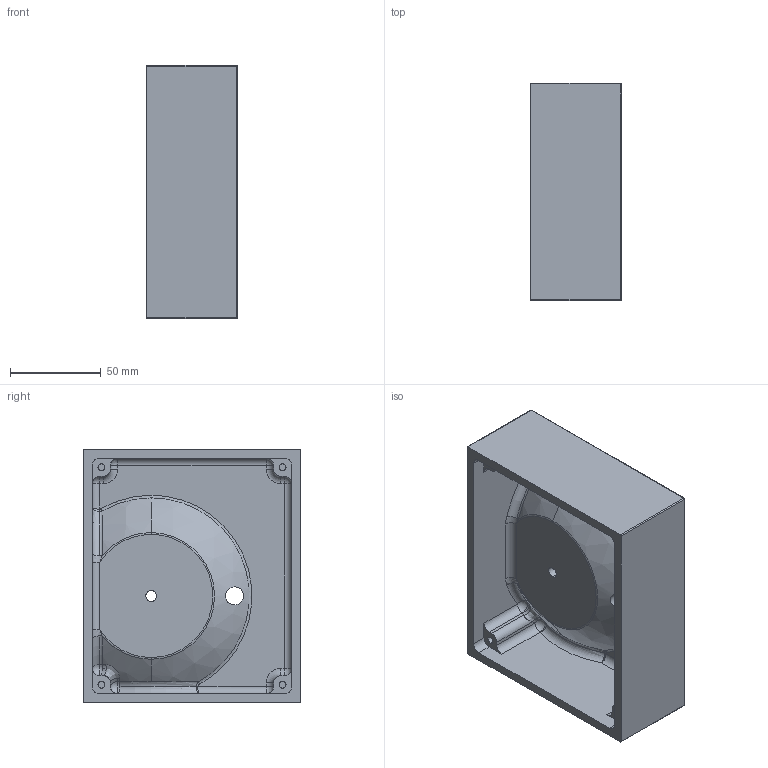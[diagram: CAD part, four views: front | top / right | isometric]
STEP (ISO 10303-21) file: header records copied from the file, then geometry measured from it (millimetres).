
FILE_DESCRIPTION (( 'STEP AP214' ), '1' );
FILE_NAME ('Support2.STEP', '2016-07-19T15:23:59', ( '' ), ( '' ), 'SwSTEP 2.0', 'SolidWorks 2010', '' );
FILE_SCHEMA (( 'AUTOMOTIVE_DESIGN' ));
Length unit declared in the file: millimetre
Products named in the file (1): Support2
Bounding box: 50 x 120 x 140 mm (x, y, z)
Volume: 215671.5 mm3; surface area: 80193.5 mm2
Topology: 1 solids, 1 shells, 129 faces, 308 edges, 170 vertices
Faces by surface type: cylinder 48, plane 29, sphere 23, torus 22, bspline 7
Entity records: 5183 total; most frequent: CARTESIAN_POINT 2190, DIRECTION 686, ORIENTED_EDGE 584, EDGE_CURVE 292, AXIS2_PLACEMENT_3D 289, VERTEX_POINT 170, CIRCLE 166, EDGE_LOOP 138
